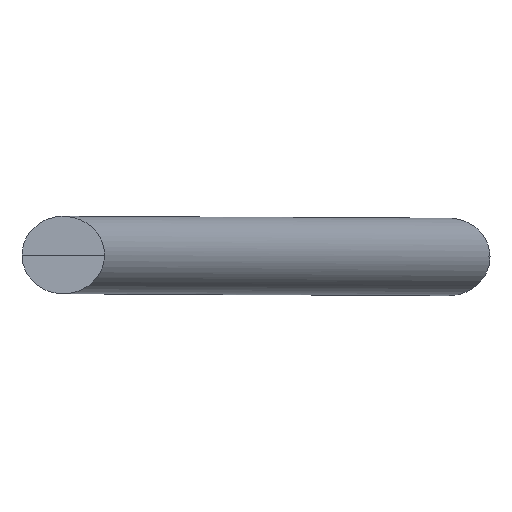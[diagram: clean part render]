
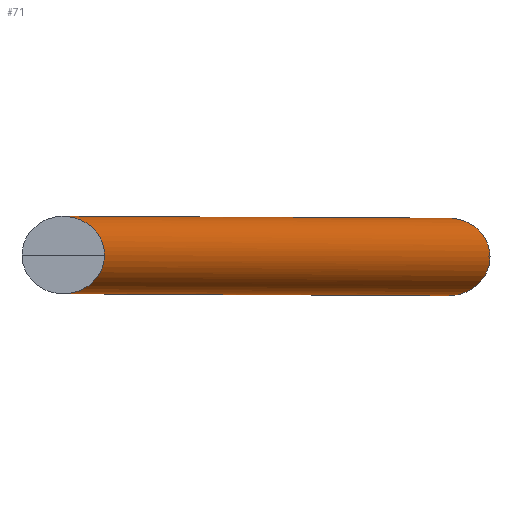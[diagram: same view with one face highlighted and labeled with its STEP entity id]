
A CAD part, top view. The second image highlights one B-rep face of the part: STEP entity #71.
In plain terms, the highlighted cylindrical face has radius 15 mm (diameter 30 mm), a full revolution.
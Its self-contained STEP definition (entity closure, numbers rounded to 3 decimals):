
#14=FACE_BOUND('',#26,.T.);
#15=CYLINDRICAL_SURFACE('',#94,15.);
#20=FACE_OUTER_BOUND('',#25,.T.);
#25=EDGE_LOOP('',(#53,#54));
#26=EDGE_LOOP('',(#55,#56));
#27=ELLIPSE('',#87,15.963,15.);
#28=ELLIPSE('',#89,15.963,15.);
#29=ELLIPSE('',#91,15.963,15.);
#30=ELLIPSE('',#93,15.963,15.);
#35=VERTEX_POINT('',#119);
#36=VERTEX_POINT('',#120);
#37=VERTEX_POINT('',#124);
#38=VERTEX_POINT('',#125);
#40=EDGE_CURVE('',#36,#35,#27,.T.);
#42=EDGE_CURVE('',#38,#37,#28,.T.);
#43=EDGE_CURVE('',#35,#36,#29,.T.);
#44=EDGE_CURVE('',#37,#38,#30,.T.);
#53=ORIENTED_EDGE('',*,*,#43,.T.);
#54=ORIENTED_EDGE('',*,*,#40,.T.);
#55=ORIENTED_EDGE('',*,*,#42,.T.);
#56=ORIENTED_EDGE('',*,*,#44,.T.);
#71=ADVANCED_FACE('',(#20,#14),#15,.T.);
#87=AXIS2_PLACEMENT_3D('',#122,#100,#101);
#89=AXIS2_PLACEMENT_3D('',#127,#105,#106);
#91=AXIS2_PLACEMENT_3D('',#129,#109,#110);
#93=AXIS2_PLACEMENT_3D('',#131,#113,#114);
#94=AXIS2_PLACEMENT_3D('',#132,#115,#116);
#100=DIRECTION('center_axis',(0.,0.,
1.));
#101=DIRECTION('ref_axis',(-1.,0.,0.));
#105=DIRECTION('center_axis',(0.,0.,
-1.));
#106=DIRECTION('ref_axis',(-1.,0.,0.));
#109=DIRECTION('center_axis',(0.,0.,
1.));
#110=DIRECTION('ref_axis',(-1.,0.,0.));
#113=DIRECTION('center_axis',(0.,0.,
-1.));
#114=DIRECTION('ref_axis',(-1.,0.,0.));
#115=DIRECTION('center_axis',(-0.342,0.,0.94));
#116=DIRECTION('ref_axis',(-0.94,0.,-0.342));
#119=CARTESIAN_POINT('',(1101.43,470.,-440.));
#120=CARTESIAN_POINT('',(1069.505,470.,-440.));
#122=CARTESIAN_POINT('Origin',(1085.468,470.,-440.));
#124=CARTESIAN_POINT('',(952.203,470.,-30.));
#125=CARTESIAN_POINT('',(920.277,470.,-30.));
#127=CARTESIAN_POINT('Origin',(936.24,470.,-30.));
#129=CARTESIAN_POINT('Origin',(1085.468,470.,-440.));
#131=CARTESIAN_POINT('Origin',(936.24,470.,-30.));
#132=CARTESIAN_POINT('Origin',(1010.854,470.,-235.));
